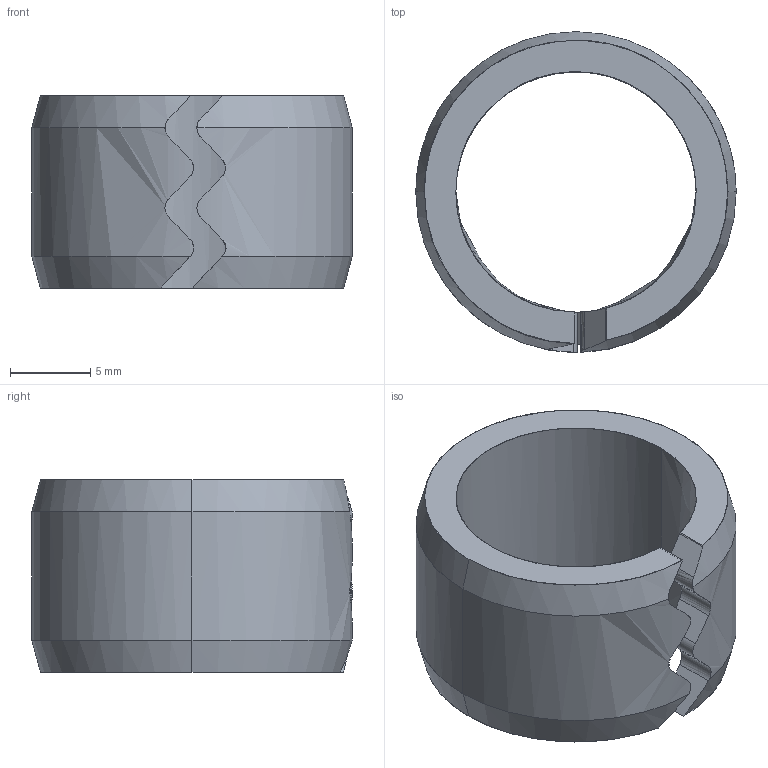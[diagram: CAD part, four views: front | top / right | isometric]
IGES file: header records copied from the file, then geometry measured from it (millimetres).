
Global section: file name: E:\UnigraphicsGraphicData\MISUMI_PRESS-PARTS\IGES\3d_swa20_00412_r00.igs; native system: NX V5.0; preprocessor: UGS NX IGES V5.0; author: MISUMI; date: 20110105.163250; units: millimetre
Bounding box: 20 x 20 x 12 mm (x, y, z)
Surface area: 1549.8 mm2 (no closed solid volume)
Topology: 0 solids, 0 shells, 34 faces, 216 edges, 216 vertices
Faces by surface type: bspline 34
